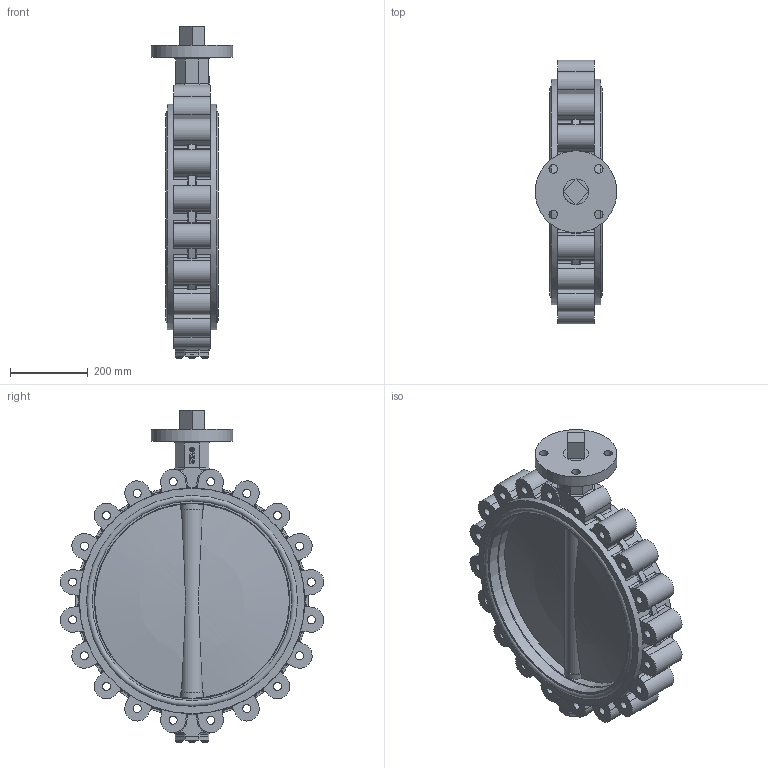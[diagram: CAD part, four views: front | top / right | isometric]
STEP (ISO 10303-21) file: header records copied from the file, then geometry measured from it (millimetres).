
FILE_DESCRIPTION(('STEP AP242'), '1');
FILE_NAME('Ïîâîðîòíûé çàòâîð ïîä ýëåêòðîïðèâîä', '', ('UNSPECIFIED'), ('UNSPECIFIED'), 'C3D Converter', 'C3D Toolkit', '');
FILE_SCHEMA(('AP242_MANAGED_MODEL_BASED_3D_ENGINEERING_MIM_LF { 1 0 10303 442 1 1 4 }'));
Length unit declared in the file: millimetre
Products named in the file (8): П
Assembly tree (11 placements, depth 2):
  (unnamed)
    (unnamed)
    П  x2
    (unnamed)
    (unnamed)
    (unnamed)
    (unnamed)
    (unnamed)  x4
Bounding box: 210 x 676.36 x 852 mm (x, y, z)
Volume: 22067732.6 mm3; surface area: 2334019.9 mm2
Topology: 11 solids, 11 shells, 974 faces, 2479 edges, 1571 vertices
Faces by surface type: plane 372, cylinder 302, extrusion 143, torus 134, cone 19, sphere 4
Full cylindrical faces by diameter (mm): 8 x4, 10 x12, 12.564 x1, 16 x8, 20.752 x20, 22 x4, 46 x5, 50.6 x1, 60.325 x4, 65.054 x5, 210 x1, 500 x1, 502.5 x2, 512.5 x2, 526.75 x4, 541 x4, 578.44 x2
Entity records: 35819 total; most frequent: CARTESIAN_POINT 11788, ORIENTED_EDGE 4486, DIRECTION 4287, EDGE_CURVE 2243, AXIS2_PLACEMENT_3D 1557, VERTEX_POINT 1479, VECTOR 1173, EDGE_LOOP 1096
